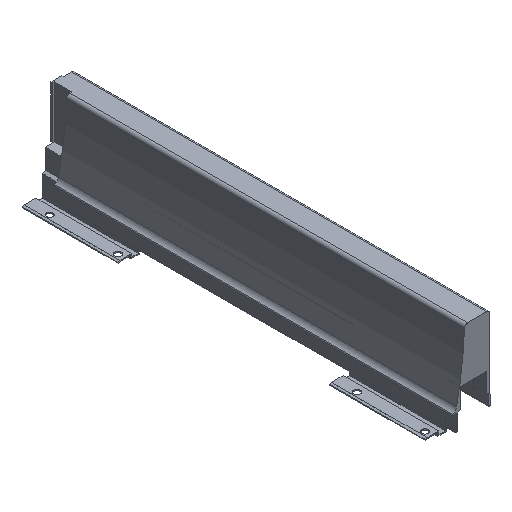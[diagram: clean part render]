
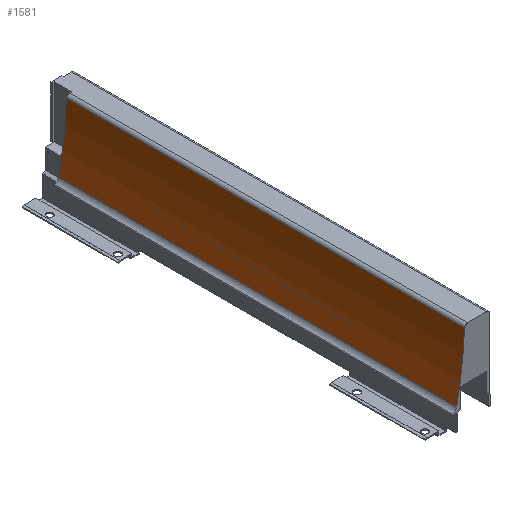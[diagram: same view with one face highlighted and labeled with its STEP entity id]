
A CAD part, isometric view. The second image highlights one B-rep face of the part: STEP entity #1581.
In plain terms, the highlighted cylindrical face has radius 350 mm (diameter 700 mm), a partial arc.
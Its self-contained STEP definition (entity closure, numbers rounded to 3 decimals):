
#37 = AXIS2_PLACEMENT_3D ( 'NONE', #2420, #2421, #2422 ) ;
#110 = AXIS2_PLACEMENT_3D ( 'NONE', #1434, #1442, #1443 ) ;
#137 = EDGE_CURVE ( 'NONE', #3187, #3186, #1125, .T. ) ;
#149 = AXIS2_PLACEMENT_3D ( 'NONE', #2885, #2870, #2877 ) ;
#184 = EDGE_CURVE ( 'NONE', #3186, #3216, #1184, .T. ) ;
#304 = EDGE_CURVE ( 'NONE', #3187, #3217, #2744, .T. ) ;
#455 = EDGE_CURVE ( 'NONE', #3217, #3216, #2064, .T. ) ;
#1015 = EDGE_LOOP ( 'NONE', ( #1905, #1885, #1926, #1925 ) ) ;
#1125 = CIRCLE ( 'NONE', #37, 350. ) ;
#1184 = LINE ( 'NONE', #2497, #1189 ) ;
#1189 = VECTOR ( 'NONE', #2501, 1000. ) ;
#1210 = CARTESIAN_POINT ( 'NONE',  ( -19.877, 390., 46.603 ) ) ;
#1211 = DIRECTION ( 'NONE',  ( 0., -1., 0. ) ) ;
#1434 = CARTESIAN_POINT ( 'NONE',  ( -369.661, 0., 58.879 ) ) ;
#1442 = DIRECTION ( 'NONE',  ( 0., 1., 0. ) ) ;
#1443 = DIRECTION ( 'NONE',  ( -1., 0., 0. ) ) ;
#1581 = ADVANCED_FACE ( 'NONE', ( #2665 ), #2685, .F. ) ;
#1885 = ORIENTED_EDGE ( 'NONE', *, *, #137, .T. ) ;
#1905 = ORIENTED_EDGE ( 'NONE', *, *, #304, .F. ) ;
#1925 = ORIENTED_EDGE ( 'NONE', *, *, #455, .F. ) ;
#1926 = ORIENTED_EDGE ( 'NONE', *, *, #184, .T. ) ;
#2064 = CIRCLE ( 'NONE', #110, 350. ) ;
#2420 = CARTESIAN_POINT ( 'NONE',  ( -369.661, 373.8, 58.879 ) ) ;
#2421 = DIRECTION ( 'NONE',  ( 0., 1., 0. ) ) ;
#2422 = DIRECTION ( 'NONE',  ( -1., 0., 0. ) ) ;
#2497 = CARTESIAN_POINT ( 'NONE',  ( -27.28, 390., -13.751 ) ) ;
#2501 = DIRECTION ( 'NONE',  ( 0., -1., 0. ) ) ;
#2665 = FACE_OUTER_BOUND ( 'NONE', #1015, .T. ) ;
#2685 = CYLINDRICAL_SURFACE ( 'NONE', #149, 350. ) ;
#2744 = LINE ( 'NONE', #1210, #2745 ) ;
#2745 = VECTOR ( 'NONE', #1211, 1000. ) ;
#2870 = DIRECTION ( 'NONE',  ( 0., -1., 0. ) ) ;
#2877 = DIRECTION ( 'NONE',  ( 1., 0., 0. ) ) ;
#2885 = CARTESIAN_POINT ( 'NONE',  ( -369.661, 390., 58.879 ) ) ;
#3022 = CARTESIAN_POINT ( 'NONE',  ( -27.28, 373.8, -13.751 ) ) ;
#3023 = CARTESIAN_POINT ( 'NONE',  ( -19.877, 373.8, 46.603 ) ) ;
#3052 = CARTESIAN_POINT ( 'NONE',  ( -27.28, 0., -13.751 ) ) ;
#3053 = CARTESIAN_POINT ( 'NONE',  ( -19.877, 0., 46.603 ) ) ;
#3186 = VERTEX_POINT ( 'NONE', #3022 ) ;
#3187 = VERTEX_POINT ( 'NONE', #3023 ) ;
#3216 = VERTEX_POINT ( 'NONE', #3052 ) ;
#3217 = VERTEX_POINT ( 'NONE', #3053 ) ;
